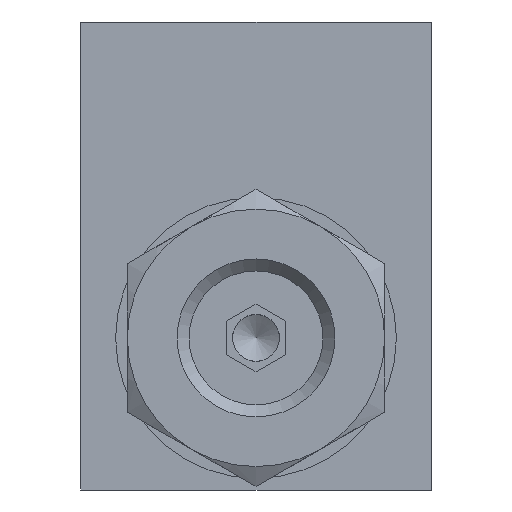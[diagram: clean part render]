
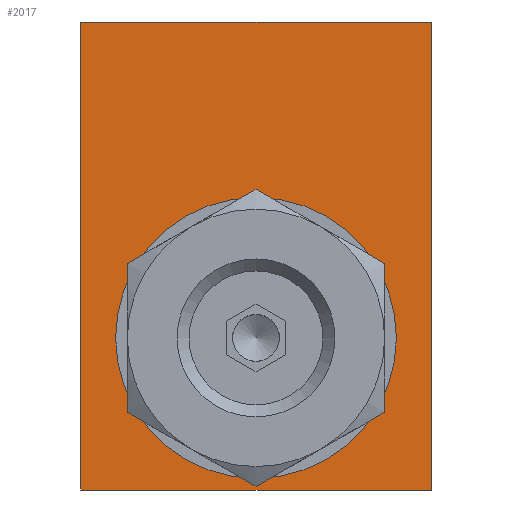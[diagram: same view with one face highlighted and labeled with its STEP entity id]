
A CAD part, left-side view. The second image highlights one B-rep face of the part: STEP entity #2017.
In plain terms, the highlighted planar face has unit normal (-1, 0, 0).
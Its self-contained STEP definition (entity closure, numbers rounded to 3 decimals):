
#84=PLANE('',#2300);
#106=FACE_BOUND('',#387,.T.);
#271=FACE_OUTER_BOUND('',#386,.T.);
#386=EDGE_LOOP('',(#1741,#1742,#1743,#1744));
#387=EDGE_LOOP('',(#1745,#1746));
#466=LINE('',#4180,#544);
#469=LINE('',#4186,#547);
#472=LINE('',#4193,#550);
#473=LINE('',#4194,#551);
#544=VECTOR('',#2836,10.);
#547=VECTOR('',#2841,10.);
#550=VECTOR('',#2848,10.);
#551=VECTOR('',#2849,10.);
#686=CIRCLE('',#2283,12.);
#687=CIRCLE('',#2284,12.);
#900=VERTEX_POINT('',#4143);
#901=VERTEX_POINT('',#4144);
#911=VERTEX_POINT('',#4173);
#914=VERTEX_POINT('',#4178);
#915=VERTEX_POINT('',#4182);
#918=VERTEX_POINT('',#4192);
#1200=EDGE_CURVE('',#900,#901,#686,.T.);
#1201=EDGE_CURVE('',#901,#900,#687,.T.);
#1218=EDGE_CURVE('',#914,#911,#466,.T.);
#1221=EDGE_CURVE('',#911,#915,#469,.T.);
#1224=EDGE_CURVE('',#918,#915,#472,.T.);
#1225=EDGE_CURVE('',#914,#918,#473,.T.);
#1741=ORIENTED_EDGE('',*,*,#1224,.T.);
#1742=ORIENTED_EDGE('',*,*,#1221,.F.);
#1743=ORIENTED_EDGE('',*,*,#1218,.F.);
#1744=ORIENTED_EDGE('',*,*,#1225,.T.);
#1745=ORIENTED_EDGE('',*,*,#1200,.T.);
#1746=ORIENTED_EDGE('',*,*,#1201,.T.);
#2017=ADVANCED_FACE('',(#271,#106),#84,.T.);
#2283=AXIS2_PLACEMENT_3D('',#4145,#2799,#2800);
#2284=AXIS2_PLACEMENT_3D('',#4146,#2801,#2802);
#2300=AXIS2_PLACEMENT_3D('',#4191,#2846,#2847);
#2799=DIRECTION('center_axis',(1.,0.,0.));
#2800=DIRECTION('ref_axis',(0.,0.,1.));
#2801=DIRECTION('center_axis',(1.,0.,0.));
#2802=DIRECTION('ref_axis',(0.,0.,1.));
#2836=DIRECTION('',(0.,1.,0.));
#2841=DIRECTION('',(0.,0.,1.));
#2846=DIRECTION('center_axis',(-1.,0.,0.));
#2847=DIRECTION('ref_axis',(0.,0.,1.));
#2848=DIRECTION('',(0.,1.,0.));
#2849=DIRECTION('',(0.,0.,1.));
#4143=CARTESIAN_POINT('',(-39.493,-98.663,41.374));
#4144=CARTESIAN_POINT('',(-39.493,-98.663,17.374));
#4145=CARTESIAN_POINT('Origin',(-39.493,-98.663,29.374));
#4146=CARTESIAN_POINT('Origin',(-39.493,-98.663,29.374));
#4173=CARTESIAN_POINT('',(-39.493,-83.663,16.374));
#4178=CARTESIAN_POINT('',(-39.493,-113.663,16.374));
#4180=CARTESIAN_POINT('',(-39.493,-113.663,16.374));
#4182=CARTESIAN_POINT('',(-39.493,-83.663,56.374));
#4186=CARTESIAN_POINT('',(-39.493,-83.663,16.374));
#4191=CARTESIAN_POINT('Origin',(-39.493,-113.663,16.374));
#4192=CARTESIAN_POINT('',(-39.493,-113.663,56.374));
#4193=CARTESIAN_POINT('',(-39.493,-113.663,56.374));
#4194=CARTESIAN_POINT('',(-39.493,-113.663,16.374));
